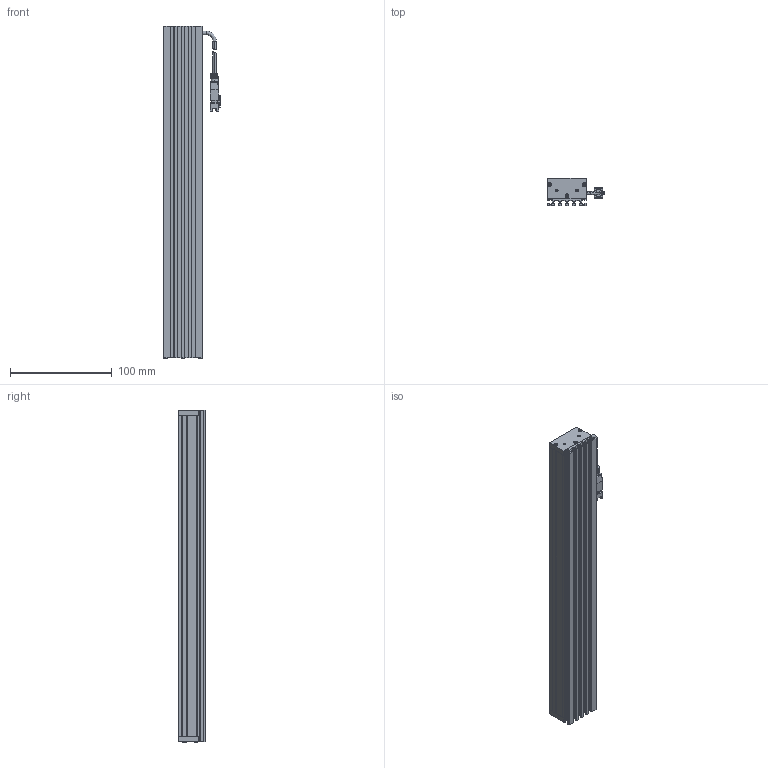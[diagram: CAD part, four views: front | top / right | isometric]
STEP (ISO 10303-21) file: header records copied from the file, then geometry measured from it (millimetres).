
FILE_DESCRIPTION (( 'STEP AP203' ), '1' );
FILE_NAME ('CK-BL32738.STEP', '2026-01-28T02:26:18', ( '' ), ( '' ), 'SwSTEP 2.0', 'SolidWorks 2022', '' );
FILE_SCHEMA (( 'CONFIG_CONTROL_DESIGN' ));
Length unit declared in the file: millimetre
Products named in the file (6): CK32738-001A; CK-BL32738; CK-BL32738-003A; 十字沉头螺丝 M2x10; 光源线; CK-BL32738-002A
Assembly tree (11 placements, depth 2):
  CK-BL32738
    CK32738-001A
    CK-BL32738-002A  x2
    CK-BL32738-003A
    光源线
    十字沉头螺丝 M2x10  x6
Bounding box: 55.84 x 27 x 327 mm (x, y, z)
Volume: 136653.2 mm3; surface area: 117960.8 mm2
Topology: 13 solids, 13 shells, 641 faces, 1692 edges, 1082 vertices
Faces by surface type: plane 353, cylinder 210, cone 46, bspline 32
Entity records: 16373 total; most frequent: CARTESIAN_POINT 3399, ORIENTED_EDGE 2598, DIRECTION 2515, EDGE_CURVE 1299, VECTOR 875, LINE 875, VERTEX_POINT 846, AXIS2_PLACEMENT_3D 820
